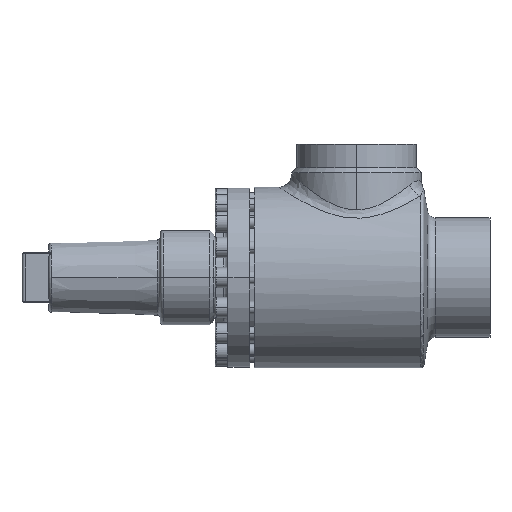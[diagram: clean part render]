
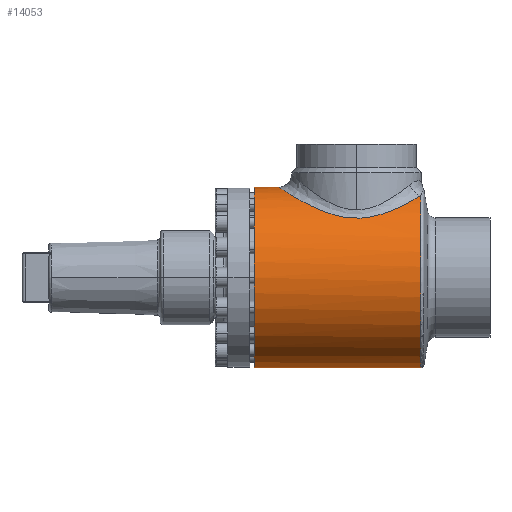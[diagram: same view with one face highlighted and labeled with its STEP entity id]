
A CAD part, left-side view. The second image highlights one B-rep face of the part: STEP entity #14053.
In plain terms, the highlighted cylindrical face has radius 57.5 mm (diameter 115 mm), a partial arc.
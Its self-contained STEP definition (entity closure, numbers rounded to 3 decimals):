
#3720 = ORIENTED_EDGE ( 'NONE', *, *, #13369, .T. ) ;
#5241 = ORIENTED_EDGE ( 'NONE', *, *, #10124, .T. ) ;
#5583 = ORIENTED_EDGE ( 'NONE', *, *, #15539, .F. ) ;
#6832 = CARTESIAN_POINT ( 'NONE',  ( 0., 0., -57.5 ) ) ;
#6997 = VERTEX_POINT ( 'NONE', #9707 ) ;
#7115 = LINE ( 'NONE', #7116, #7117 ) ;
#7116 = CARTESIAN_POINT ( 'NONE',  ( 0., -111., -57.5 ) ) ;
#7117 = VECTOR ( 'NONE', #7118, 1000. ) ;
#7118 = DIRECTION ( 'NONE',  ( 0., 1., 0. ) ) ;
#7265 = CIRCLE ( 'NONE', #7266, 57.5 ) ;
#7266 = AXIS2_PLACEMENT_3D ( 'NONE', #7267, #7268, #7272 ) ;
#7267 = CARTESIAN_POINT ( 'NONE',  ( 0., 0., 0. ) ) ;
#7268 = DIRECTION ( 'NONE',  ( 0., 1., 0. ) ) ;
#7272 = DIRECTION ( 'NONE',  ( 0., 0., 1. ) ) ;
#8604 = CARTESIAN_POINT ( 'NONE',  ( -24.174, -105.892, 52.171 ) ) ;
#8997 = CARTESIAN_POINT ( 'NONE',  ( 0., -15.7, 57.5 ) ) ;
#9138 = LINE ( 'NONE', #9139, #9140 ) ;
#9139 = CARTESIAN_POINT ( 'NONE',  ( 0., -111., 57.5 ) ) ;
#9140 = VECTOR ( 'NONE', #9141, 1000. ) ;
#9141 = DIRECTION ( 'NONE',  ( 0., 1., 0. ) ) ;
#9489 = FACE_OUTER_BOUND ( 'NONE', #13825, .T. ) ;
#9490 = CYLINDRICAL_SURFACE ( 'NONE', #9491, 57.5 ) ;
#9491 = AXIS2_PLACEMENT_3D ( 'NONE', #9492, #9493, #9494 ) ;
#9492 = CARTESIAN_POINT ( 'NONE',  ( 0., -111., 0. ) ) ;
#9493 = DIRECTION ( 'NONE',  ( 0., 1., 0. ) ) ;
#9494 = DIRECTION ( 'NONE',  ( 0., 0., 1. ) ) ;
#9603 = CARTESIAN_POINT ( 'NONE',  ( 0., 0., 57.5 ) ) ;
#9707 = CARTESIAN_POINT ( 'NONE',  ( 0., -105.892, -57.5 ) ) ;
#10124 = EDGE_CURVE ( 'NONE', #6997, #12465, #10895, .T. ) ;
#10201 = EDGE_CURVE ( 'NONE', #12465, #13158, #11355, .T. ) ;
#10242 = ORIENTED_EDGE ( 'NONE', *, *, #10201, .T. ) ;
#10895 = CIRCLE ( 'NONE', #10896, 57.5 ) ;
#10896 = AXIS2_PLACEMENT_3D ( 'NONE', #10897, #10898, #10899 ) ;
#10897 = CARTESIAN_POINT ( 'NONE',  ( 0., -105.892, 0. ) ) ;
#10898 = DIRECTION ( 'NONE',  ( 0., 1., 0. ) ) ;
#10899 = DIRECTION ( 'NONE',  ( 0., 0., -1. ) ) ;
#11102 = EDGE_CURVE ( 'NONE', #15322, #14238, #7265, .T. ) ;
#11355 = B_SPLINE_CURVE_WITH_KNOTS ( 'NONE', 3,
 ( #11356, #11357, #11358, #11359, #11360, #11361, #11362, #11363, #11364, #11365, #11366, #11367, #11368, #11369, #11370, #11371, #11372, #11373, #11374, #11375, #11376, #11377, #11378, #11379, #11380, #11381, #11382, #11383, #11384, #11385, #11386, #11387, #11388, #11389, #11394, #11395, #11396, #11397, #11398, #11399, #11400, #11401, #11402, #11403, #11404, #11405, #11406, #11407, #11408, #11409, #11412, #11413, #11414, #11415, #11416, #11417, #11418, #11419, #11420, #11421, #11422, #11423 ),
 .UNSPECIFIED., .F., .F.,
 ( 4, 2, 2, 2, 2, 2, 2, 2, 2, 2, 2, 2, 2, 2, 2, 2, 2, 2, 2, 2, 2, 2, 2, 2, 2, 2, 2, 2, 2, 2, 4 ),
 ( 0., 0.008, 0.016, 0.017, 0.019, 0.023, 0.031, 0.035, 0.039, 0.047, 0.049, 0.05, 0.054, 0.058, 0.06, 0.062, 0.07, 0.074, 0.078, 0.085, 0.089, 0.091, 0.093, 0.101, 0.105, 0.107, 0.109, 0.116, 0.118, 0.12, 0.124 ),
 .UNSPECIFIED. ) ;
#11356 = CARTESIAN_POINT ( 'NONE',  ( -24.174, -105.892, 52.171 ) ) ;
#11357 = CARTESIAN_POINT ( 'NONE',  ( -26.132, -104.39, 51.264 ) ) ;
#11358 = CARTESIAN_POINT ( 'NONE',  ( -27.915, -102.76, 50.305 ) ) ;
#11359 = CARTESIAN_POINT ( 'NONE',  ( -31.195, -99.268, 48.34 ) ) ;
#11360 = CARTESIAN_POINT ( 'NONE',  ( -32.691, -97.405, 47.333 ) ) ;
#11361 = CARTESIAN_POINT ( 'NONE',  ( -34.397, -94.927, 46.079 ) ) ;
#11362 = CARTESIAN_POINT ( 'NONE',  ( -34.73, -94.424, 45.829 ) ) ;
#11363 = CARTESIAN_POINT ( 'NONE',  ( -35.379, -93.402, 45.329 ) ) ;
#11364 = CARTESIAN_POINT ( 'NONE',  ( -35.695, -92.884, 45.08 ) ) ;
#11365 = CARTESIAN_POINT ( 'NONE',  ( -36.613, -91.317, 44.344 ) ) ;
#11366 = CARTESIAN_POINT ( 'NONE',  ( -37.186, -90.253, 43.863 ) ) ;
#11367 = CARTESIAN_POINT ( 'NONE',  ( -38.793, -86.998, 42.466 ) ) ;
#11368 = CARTESIAN_POINT ( 'NONE',  ( -39.716, -84.747, 41.594 ) ) ;
#11369 = CARTESIAN_POINT ( 'NONE',  ( -40.882, -81.225, 40.437 ) ) ;
#11370 = CARTESIAN_POINT ( 'NONE',  ( -41.234, -80.027, 40.077 ) ) ;
#11371 = CARTESIAN_POINT ( 'NONE',  ( -41.862, -77.576, 39.421 ) ) ;
#11372 = CARTESIAN_POINT ( 'NONE',  ( -42.138, -76.319, 39.125 ) ) ;
#11373 = CARTESIAN_POINT ( 'NONE',  ( -42.831, -72.529, 38.37 ) ) ;
#11374 = CARTESIAN_POINT ( 'NONE',  ( -43.12, -69.961, 38.038 ) ) ;
#11375 = CARTESIAN_POINT ( 'NONE',  ( -43.257, -66.692, 37.883 ) ) ;
#11376 = CARTESIAN_POINT ( 'NONE',  ( -43.273, -66.034, 37.864 ) ) ;
#11377 = CARTESIAN_POINT ( 'NONE',  ( -43.282, -64.718, 37.854 ) ) ;
#11378 = CARTESIAN_POINT ( 'NONE',  ( -43.275, -64.063, 37.862 ) ) ;
#11379 = CARTESIAN_POINT ( 'NONE',  ( -43.219, -62.103, 37.926 ) ) ;
#11380 = CARTESIAN_POINT ( 'NONE',  ( -43.137, -60.806, 38.02 ) ) ;
#11381 = CARTESIAN_POINT ( 'NONE',  ( -42.884, -58.229, 38.305 ) ) ;
#11382 = CARTESIAN_POINT ( 'NONE',  ( -42.713, -56.95, 38.496 ) ) ;
#11383 = CARTESIAN_POINT ( 'NONE',  ( -42.391, -55.043, 38.85 ) ) ;
#11384 = CARTESIAN_POINT ( 'NONE',  ( -42.272, -54.408, 38.979 ) ) ;
#11385 = CARTESIAN_POINT ( 'NONE',  ( -42.014, -53.15, 39.257 ) ) ;
#11386 = CARTESIAN_POINT ( 'NONE',  ( -41.875, -52.528, 39.406 ) ) ;
#11387 = CARTESIAN_POINT ( 'NONE',  ( -41.13, -49.446, 40.191 ) ) ;
#11388 = CARTESIAN_POINT ( 'NONE',  ( -40.378, -47.077, 40.957 ) ) ;
#11389 = CARTESIAN_POINT ( 'NONE',  ( -39.022, -43.642, 42.237 ) ) ;
#11394 = CARTESIAN_POINT ( 'NONE',  ( -38.532, -42.517, 42.685 ) ) ;
#11395 = CARTESIAN_POINT ( 'NONE',  ( -37.473, -40.304, 43.618 ) ) ;
#11396 = CARTESIAN_POINT ( 'NONE',  ( -36.908, -39.223, 44.098 ) ) ;
#11397 = CARTESIAN_POINT ( 'NONE',  ( -35.115, -36.073, 45.559 ) ) ;
#11398 = CARTESIAN_POINT ( 'NONE',  ( -33.785, -34.085, 46.562 ) ) ;
#11399 = CARTESIAN_POINT ( 'NONE',  ( -31.574, -31.259, 48.064 ) ) ;
#11400 = CARTESIAN_POINT ( 'NONE',  ( -30.801, -30.343, 48.564 ) ) ;
#11401 = CARTESIAN_POINT ( 'NONE',  ( -29.582, -29.009, 49.309 ) ) ;
#11402 = CARTESIAN_POINT ( 'NONE',  ( -29.166, -28.57, 49.557 ) ) ;
#11403 = CARTESIAN_POINT ( 'NONE',  ( -28.313, -27.708, 50.049 ) ) ;
#11404 = CARTESIAN_POINT ( 'NONE',  ( -27.875, -27.282, 50.294 ) ) ;
#11405 = CARTESIAN_POINT ( 'NONE',  ( -25.646, -25.201, 51.504 ) ) ;
#11406 = CARTESIAN_POINT ( 'NONE',  ( -23.737, -23.688, 52.419 ) ) ;
#11407 = CARTESIAN_POINT ( 'NONE',  ( -20.66, -21.659, 53.671 ) ) ;
#11408 = CARTESIAN_POINT ( 'NONE',  ( -19.599, -21.023, 54.069 ) ) ;
#11409 = CARTESIAN_POINT ( 'NONE',  ( -17.948, -20.134, 54.63 ) ) ;
#11412 = CARTESIAN_POINT ( 'NONE',  ( -17.388, -19.848, 54.811 ) ) ;
#11413 = CARTESIAN_POINT ( 'NONE',  ( -16.247, -19.3, 55.16 ) ) ;
#11414 = CARTESIAN_POINT ( 'NONE',  ( -15.665, -19.037, 55.328 ) ) ;
#11415 = CARTESIAN_POINT ( 'NONE',  ( -12.734, -17.796, 56.125 ) ) ;
#11416 = CARTESIAN_POINT ( 'NONE',  ( -10.302, -17.028, 56.627 ) ) ;
#11417 = CARTESIAN_POINT ( 'NONE',  ( -7.142, -16.371, 57.058 ) ) ;
#11418 = CARTESIAN_POINT ( 'NONE',  ( -6.505, -16.254, 57.135 ) ) ;
#11419 = CARTESIAN_POINT ( 'NONE',  ( -5.216, -16.054, 57.267 ) ) ;
#11420 = CARTESIAN_POINT ( 'NONE',  ( -4.563, -15.969, 57.322 ) ) ;
#11421 = CARTESIAN_POINT ( 'NONE',  ( -2.602, -15.766, 57.456 ) ) ;
#11422 = CARTESIAN_POINT ( 'NONE',  ( -1.298, -15.7, 57.5 ) ) ;
#11423 = CARTESIAN_POINT ( 'NONE',  ( 0., -15.7, 57.5 ) ) ;
#11428 = ORIENTED_EDGE ( 'NONE', *, *, #11102, .F. ) ;
#12465 = VERTEX_POINT ( 'NONE', #8604 ) ;
#13158 = VERTEX_POINT ( 'NONE', #8997 ) ;
#13369 = EDGE_CURVE ( 'NONE', #13158, #14238, #9138, .T. ) ;
#13825 = EDGE_LOOP ( 'NONE', ( #5583, #5241, #10242, #3720, #11428 ) ) ;
#14053 = ADVANCED_FACE ( 'NONE', ( #9489 ), #9490, .T. ) ;
#14238 = VERTEX_POINT ( 'NONE', #9603 ) ;
#15322 = VERTEX_POINT ( 'NONE', #6832 ) ;
#15539 = EDGE_CURVE ( 'NONE', #6997, #15322, #7115, .T. ) ;
